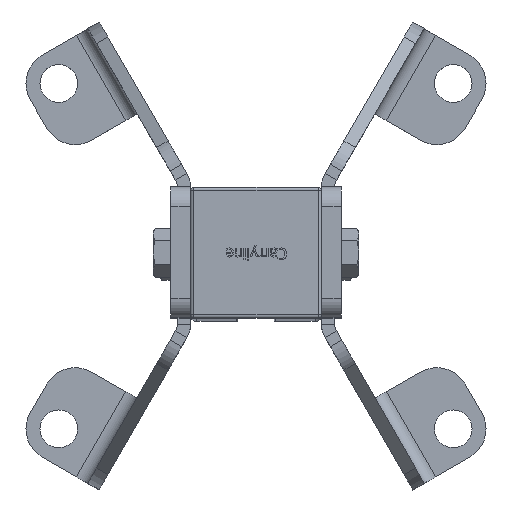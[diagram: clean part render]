
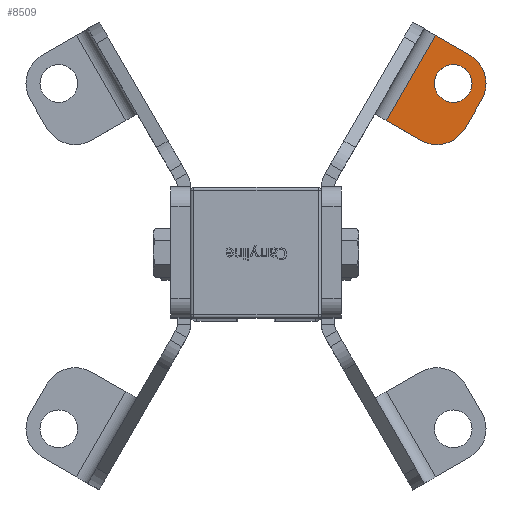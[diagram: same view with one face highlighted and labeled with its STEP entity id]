
A CAD part, top view. The second image highlights one B-rep face of the part: STEP entity #8509.
In plain terms, the highlighted planar face has unit normal (0, 0, 1) as drawn and (0, 1, 0) by its records, which use the part's own axes.
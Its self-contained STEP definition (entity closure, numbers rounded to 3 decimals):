
#296=FACE_BOUND('',#1099,.T.);
#361=PLANE('',#9170);
#618=FACE_OUTER_BOUND('',#1098,.T.);
#1098=EDGE_LOOP('',(#5938,#5939,#5940,#5941,#5942,#5943));
#1099=EDGE_LOOP('',(#5944,#5945));
#1623=LINE('',#12476,#2440);
#1632=LINE('',#12507,#2449);
#1639=LINE('',#12525,#2456);
#1641=LINE('',#12533,#2458);
#2440=VECTOR('',#10089,10.);
#2449=VECTOR('',#10122,5.76);
#2456=VECTOR('',#10143,5.76);
#2458=VECTOR('',#10153,10.);
#3234=CIRCLE('',#9169,10.);
#3235=CIRCLE('',#9171,10.);
#3236=CIRCLE('',#9172,5.75);
#3237=CIRCLE('',#9173,5.75);
#3608=VERTEX_POINT('',#12474);
#3609=VERTEX_POINT('',#12475);
#3619=VERTEX_POINT('',#12505);
#3623=VERTEX_POINT('',#12523);
#3624=VERTEX_POINT('',#12527);
#3625=VERTEX_POINT('',#12531);
#3626=VERTEX_POINT('',#12534);
#3627=VERTEX_POINT('',#12535);
#4500=EDGE_CURVE('',#3608,#3609,#1623,.T.);
#4517=EDGE_CURVE('',#3619,#3608,#1632,.T.);
#4526=EDGE_CURVE('',#3623,#3609,#1639,.T.);
#4528=EDGE_CURVE('',#3624,#3623,#3234,.T.);
#4529=EDGE_CURVE('',#3619,#3625,#3235,.T.);
#4530=EDGE_CURVE('',#3624,#3625,#1641,.T.);
#4531=EDGE_CURVE('',#3626,#3627,#3236,.T.);
#4532=EDGE_CURVE('',#3627,#3626,#3237,.T.);
#5938=ORIENTED_EDGE('',*,*,#4529,.F.);
#5939=ORIENTED_EDGE('',*,*,#4517,.T.);
#5940=ORIENTED_EDGE('',*,*,#4500,.T.);
#5941=ORIENTED_EDGE('',*,*,#4526,.F.);
#5942=ORIENTED_EDGE('',*,*,#4528,.F.);
#5943=ORIENTED_EDGE('',*,*,#4530,.T.);
#5944=ORIENTED_EDGE('',*,*,#4531,.T.);
#5945=ORIENTED_EDGE('',*,*,#4532,.T.);
#8509=ADVANCED_FACE('',(#618,#296),#361,.T.);
#9169=AXIS2_PLACEMENT_3D('',#12529,#10147,#10148);
#9170=AXIS2_PLACEMENT_3D('',#12530,#10149,#10150);
#9171=AXIS2_PLACEMENT_3D('',#12532,#10151,#10152);
#9172=AXIS2_PLACEMENT_3D('',#12536,#10154,#10155);
#9173=AXIS2_PLACEMENT_3D('',#12537,#10156,#10157);
#10089=DIRECTION('',(-0.866,0.,-0.5));
#10122=DIRECTION('',(0.5,0.,-0.866));
#10143=DIRECTION('',(0.5,0.,-0.866));
#10147=DIRECTION('center_axis',(0.,-1.,0.));
#10148=DIRECTION('ref_axis',(-0.966,0.,0.259));
#10149=DIRECTION('center_axis',(0.,1.,0.));
#10150=DIRECTION('ref_axis',(0.866,0.,0.5));
#10151=DIRECTION('center_axis',(0.,-1.,0.));
#10152=DIRECTION('ref_axis',(0.259,0.,0.966));
#10153=DIRECTION('',(0.866,0.,0.5));
#10154=DIRECTION('center_axis',(0.,-1.,0.));
#10155=DIRECTION('ref_axis',(-0.866,0.,-0.5));
#10156=DIRECTION('center_axis',(0.,-1.,0.));
#10157=DIRECTION('ref_axis',(-0.866,0.,-0.5));
#12474=CARTESIAN_POINT('',(144.817,4.,34.746));
#12475=CARTESIAN_POINT('',(118.837,4.,19.746));
#12476=CARTESIAN_POINT('',(131.827,4.,27.246));
#12505=CARTESIAN_POINT('',(138.817,4.,45.138));
#12507=CARTESIAN_POINT('',(153.865,4.,19.075));
#12523=CARTESIAN_POINT('',(112.837,4.,30.138));
#12525=CARTESIAN_POINT('',(127.885,4.,4.075));
#12527=CARTESIAN_POINT('',(116.497,4.,43.799));
#12529=CARTESIAN_POINT('Origin',(121.497,4.,35.138));
#12530=CARTESIAN_POINT('Origin',(128.589,4.,32.854));
#12531=CARTESIAN_POINT('',(125.157,4.,48.799));
#12532=CARTESIAN_POINT('Origin',(130.157,4.,40.138));
#12533=CARTESIAN_POINT('',(107.837,4.,38.799));
#12534=CARTESIAN_POINT('',(125.178,4.,37.263));
#12535=CARTESIAN_POINT('',(135.137,4.,43.013));
#12536=CARTESIAN_POINT('Origin',(130.157,4.,40.138));
#12537=CARTESIAN_POINT('Origin',(130.157,4.,40.138));
